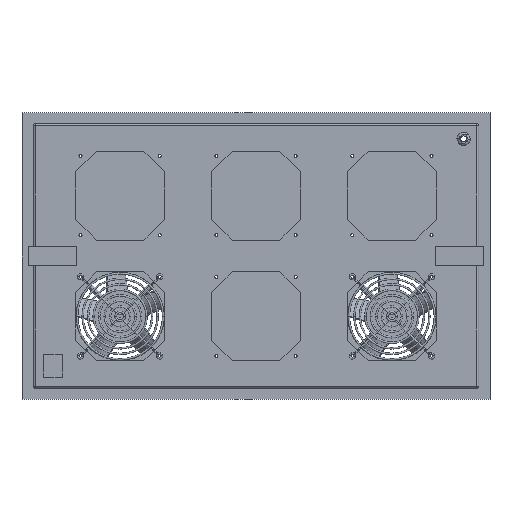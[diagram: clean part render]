
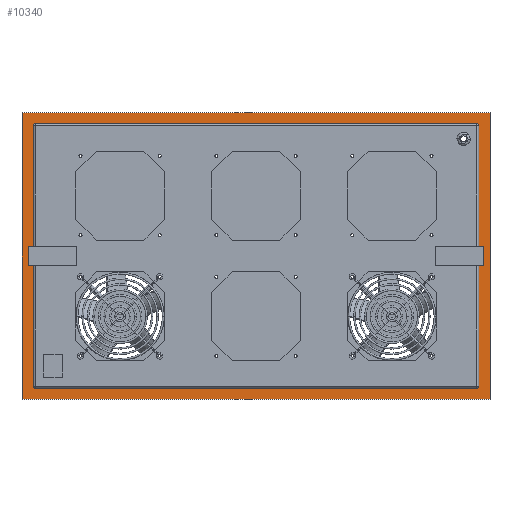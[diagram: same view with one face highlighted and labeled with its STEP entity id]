
A CAD part, top view. The second image highlights one B-rep face of the part: STEP entity #10340.
In plain terms, the highlighted planar face has unit normal (0, 0, 1).
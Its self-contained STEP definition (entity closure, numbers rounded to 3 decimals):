
#10219 = ORIENTED_EDGE ( 'NONE', *, *, #10539, .T. ) ;
#10340 = ADVANCED_FACE ( 'NONE', ( #28516, #28522 ), #28481, .T. ) ;
#10341 = ORIENTED_EDGE ( 'NONE', *, *, #10343, .T. ) ;
#10342 = ORIENTED_EDGE ( 'NONE', *, *, #10450, .T. ) ;
#10343 = EDGE_CURVE ( 'NONE', #10386, #10416, #28515, .T. ) ;
#10344 = VERTEX_POINT ( 'NONE', #28508 ) ;
#10345 = EDGE_CURVE ( 'NONE', #10416, #10344, #28503, .T. ) ;
#10346 = VERTEX_POINT ( 'NONE', #28517 ) ;
#10347 = EDGE_CURVE ( 'NONE', #10344, #10391, #28543, .T. ) ;
#10348 = EDGE_CURVE ( 'NONE', #10346, #10393, #28539, .T. ) ;
#10349 = ORIENTED_EDGE ( 'NONE', *, *, #10348, .F. ) ;
#10350 = EDGE_LOOP ( 'NONE', ( #10349, #10376, #10381, #10373, #10372, #10423, #10425, #10219 ) ) ;
#10370 = VERTEX_POINT ( 'NONE', #28421 ) ;
#10371 = EDGE_CURVE ( 'NONE', #10346, #10370, #28514, .T. ) ;
#10372 = ORIENTED_EDGE ( 'NONE', *, *, #10384, .F. ) ;
#10373 = ORIENTED_EDGE ( 'NONE', *, *, #10382, .T. ) ;
#10375 = VERTEX_POINT ( 'NONE', #28691 ) ;
#10376 = ORIENTED_EDGE ( 'NONE', *, *, #10371, .T. ) ;
#10377 = VERTEX_POINT ( 'NONE', #28776 ) ;
#10378 = VERTEX_POINT ( 'NONE', #28648 ) ;
#10379 = VERTEX_POINT ( 'NONE', #28672 ) ;
#10380 = VERTEX_POINT ( 'NONE', #28763 ) ;
#10381 = ORIENTED_EDGE ( 'NONE', *, *, #10394, .F. ) ;
#10382 = EDGE_CURVE ( 'NONE', #10377, #10378, #28777, .T. ) ;
#10383 = EDGE_CURVE ( 'NONE', #10380, #10379, #28683, .T. ) ;
#10384 = EDGE_CURVE ( 'NONE', #10380, #10378, #28659, .T. ) ;
#10386 = VERTEX_POINT ( 'NONE', #28655 ) ;
#10391 = VERTEX_POINT ( 'NONE', #28668 ) ;
#10393 = VERTEX_POINT ( 'NONE', #28788 ) ;
#10394 = EDGE_CURVE ( 'NONE', #10377, #10370, #28787, .T. ) ;
#10412 = EDGE_LOOP ( 'NONE', ( #10342, #10341, #10449, #10451 ) ) ;
#10416 = VERTEX_POINT ( 'NONE', #28745 ) ;
#10423 = ORIENTED_EDGE ( 'NONE', *, *, #10383, .T. ) ;
#10424 = EDGE_CURVE ( 'NONE', #10375, #10379, #28734, .T. ) ;
#10425 = ORIENTED_EDGE ( 'NONE', *, *, #10424, .F. ) ;
#10449 = ORIENTED_EDGE ( 'NONE', *, *, #10345, .T. ) ;
#10450 = EDGE_CURVE ( 'NONE', #10391, #10386, #28646, .T. ) ;
#10451 = ORIENTED_EDGE ( 'NONE', *, *, #10347, .T. ) ;
#10539 = EDGE_CURVE ( 'NONE', #10375, #10393, #28799, .T. ) ;
#27478 = CARTESIAN_POINT ( 'NONE',  ( 292.6, 172.6, 1.2 ) ) ;
#28088 = DIRECTION ( 'NONE',  ( 0., 0., -1. ) ) ;
#28093 = DIRECTION ( 'NONE',  ( 1., 0., 0. ) ) ;
#28417 = AXIS2_PLACEMENT_3D ( 'NONE', #27478, #28088, #28093 ) ;
#28421 = CARTESIAN_POINT ( 'NONE',  ( 295., 172.6, 1.2 ) ) ;
#28481 = PLANE ( 'NONE',  #28513 ) ;
#28503 = LINE ( 'NONE', #28546, #28545 ) ;
#28504 = DIRECTION ( 'NONE',  ( -1., 0., 0. ) ) ;
#28505 = VECTOR ( 'NONE', #28504, 1000. ) ;
#28506 = CARTESIAN_POINT ( 'NONE',  ( -310., 190., 1.2 ) ) ;
#28508 = CARTESIAN_POINT ( 'NONE',  ( -310., -190., 1.2 ) ) ;
#28510 = DIRECTION ( 'NONE',  ( 1., 0., 0. ) ) ;
#28511 = DIRECTION ( 'NONE',  ( 0., 0., 1. ) ) ;
#28512 = CARTESIAN_POINT ( 'NONE',  ( 0., 0., 1.2 ) ) ;
#28513 = AXIS2_PLACEMENT_3D ( 'NONE', #28512, #28511, #28510 ) ;
#28514 = CIRCLE ( 'NONE', #28417, 2.4 ) ;
#28515 = LINE ( 'NONE', #28506, #28505 ) ;
#28516 = FACE_OUTER_BOUND ( 'NONE', #10412, .T. ) ;
#28517 = CARTESIAN_POINT ( 'NONE',  ( 292.6, 175., 1.2 ) ) ;
#28522 = FACE_BOUND ( 'NONE', #10350, .T. ) ;
#28536 = DIRECTION ( 'NONE',  ( -1., 0., 0. ) ) ;
#28537 = VECTOR ( 'NONE', #28536, 1000. ) ;
#28538 = CARTESIAN_POINT ( 'NONE',  ( -295., 175., 1.2 ) ) ;
#28539 = LINE ( 'NONE', #28538, #28537 ) ;
#28540 = DIRECTION ( 'NONE',  ( 1., 0., 0. ) ) ;
#28541 = VECTOR ( 'NONE', #28540, 1000. ) ;
#28542 = CARTESIAN_POINT ( 'NONE',  ( -310., -190., 1.2 ) ) ;
#28543 = LINE ( 'NONE', #28542, #28541 ) ;
#28544 = DIRECTION ( 'NONE',  ( 0., -1., 0. ) ) ;
#28545 = VECTOR ( 'NONE', #28544, 1000. ) ;
#28546 = CARTESIAN_POINT ( 'NONE',  ( -310., 190., 1.2 ) ) ;
#28638 = AXIS2_PLACEMENT_3D ( 'NONE', #28663, #28662, #28661 ) ;
#28642 = DIRECTION ( 'NONE',  ( 0., -1., 0. ) ) ;
#28643 = VECTOR ( 'NONE', #28642, 1000. ) ;
#28644 = CARTESIAN_POINT ( 'NONE',  ( -295., -175., 1.2 ) ) ;
#28646 = LINE ( 'NONE', #28701, #28700 ) ;
#28648 = CARTESIAN_POINT ( 'NONE',  ( 292.6, -175., 1.2 ) ) ;
#28655 = CARTESIAN_POINT ( 'NONE',  ( 310., 190., 1.2 ) ) ;
#28657 = DIRECTION ( 'NONE',  ( 1., 0., 0. ) ) ;
#28658 = AXIS2_PLACEMENT_3D ( 'NONE', #28660, #28682, #28754 ) ;
#28659 = LINE ( 'NONE', #28665, #28664 ) ;
#28660 = CARTESIAN_POINT ( 'NONE',  ( -292.6, -172.6, 1.2 ) ) ;
#28661 = DIRECTION ( 'NONE',  ( 1., 0., 0. ) ) ;
#28662 = DIRECTION ( 'NONE',  ( 0., 0., -1. ) ) ;
#28663 = CARTESIAN_POINT ( 'NONE',  ( 292.6, -172.6, 1.2 ) ) ;
#28664 = VECTOR ( 'NONE', #28657, 1000. ) ;
#28665 = CARTESIAN_POINT ( 'NONE',  ( -295., -175., 1.2 ) ) ;
#28668 = CARTESIAN_POINT ( 'NONE',  ( 310., -190., 1.2 ) ) ;
#28672 = CARTESIAN_POINT ( 'NONE',  ( -295., -172.6, 1.2 ) ) ;
#28682 = DIRECTION ( 'NONE',  ( 0., 0., -1. ) ) ;
#28683 = CIRCLE ( 'NONE', #28658, 2.4 ) ;
#28691 = CARTESIAN_POINT ( 'NONE',  ( -295., 172.6, 1.2 ) ) ;
#28699 = DIRECTION ( 'NONE',  ( 0., 1., 0. ) ) ;
#28700 = VECTOR ( 'NONE', #28699, 1000. ) ;
#28701 = CARTESIAN_POINT ( 'NONE',  ( 310., 190., 1.2 ) ) ;
#28734 = LINE ( 'NONE', #28644, #28643 ) ;
#28745 = CARTESIAN_POINT ( 'NONE',  ( -310., 190., 1.2 ) ) ;
#28754 = DIRECTION ( 'NONE',  ( 1., 0., 0. ) ) ;
#28763 = CARTESIAN_POINT ( 'NONE',  ( -292.6, -175., 1.2 ) ) ;
#28774 = DIRECTION ( 'NONE',  ( 0., 1., 0. ) ) ;
#28775 = VECTOR ( 'NONE', #28774, 1000. ) ;
#28776 = CARTESIAN_POINT ( 'NONE',  ( 295., -172.6, 1.2 ) ) ;
#28777 = CIRCLE ( 'NONE', #28638, 2.4 ) ;
#28786 = CARTESIAN_POINT ( 'NONE',  ( 295., -175., 1.2 ) ) ;
#28787 = LINE ( 'NONE', #28786, #28775 ) ;
#28788 = CARTESIAN_POINT ( 'NONE',  ( -292.6, 175., 1.2 ) ) ;
#28799 = CIRCLE ( 'NONE', #28814, 2.4 ) ;
#28814 = AXIS2_PLACEMENT_3D ( 'NONE', #28983, #28981, #28980 ) ;
#28980 = DIRECTION ( 'NONE',  ( 1., 0., 0. ) ) ;
#28981 = DIRECTION ( 'NONE',  ( 0., 0., -1. ) ) ;
#28983 = CARTESIAN_POINT ( 'NONE',  ( -292.6, 172.6, 1.2 ) ) ;
